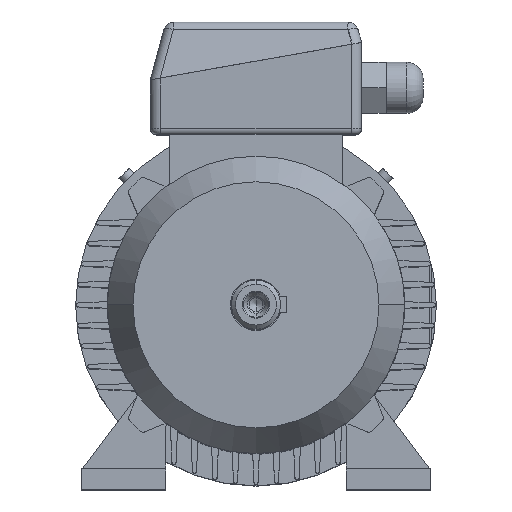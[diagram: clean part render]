
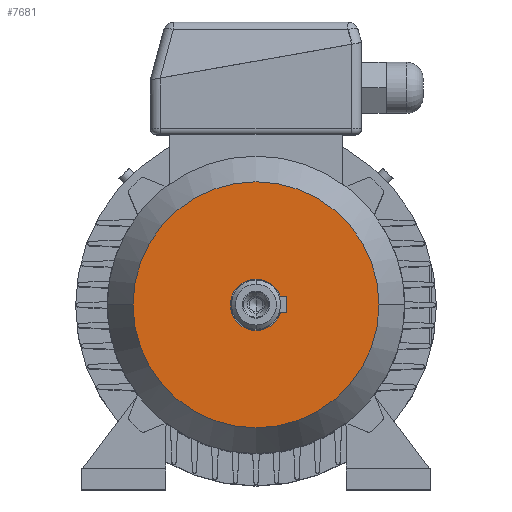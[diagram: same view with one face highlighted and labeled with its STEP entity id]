
A CAD part, top view. The second image highlights one B-rep face of the part: STEP entity #7681.
In plain terms, the highlighted planar face has unit normal (0, 0, 1).
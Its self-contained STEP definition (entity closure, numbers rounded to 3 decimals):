
#2249 = VERTEX_POINT ( 'NONE', #10528 ) ;
#2361 = CIRCLE ( 'NONE', #2362, 60. ) ;
#2362 = AXIS2_PLACEMENT_3D ( 'NONE', #2363, #2364, #2365 ) ;
#2363 = CARTESIAN_POINT ( 'NONE',  ( 0., 0., 33. ) ) ;
#2364 = DIRECTION ( 'NONE',  ( 0., 0., -1. ) ) ;
#2365 = DIRECTION ( 'NONE',  ( -1., 0., 0. ) ) ;
#2845 = FACE_OUTER_BOUND ( 'NONE', #7402, .T. ) ;
#2846 = PLANE ( 'NONE',  #2847 ) ;
#2847 = AXIS2_PLACEMENT_3D ( 'NONE', #2848, #2849, #2850 ) ;
#2848 = CARTESIAN_POINT ( 'NONE',  ( 0., 60., 33. ) ) ;
#2849 = DIRECTION ( 'NONE',  ( 0., 0., 1. ) ) ;
#2850 = DIRECTION ( 'NONE',  ( 1., 0., 0. ) ) ;
#3659 = CARTESIAN_POINT ( 'NONE',  ( 60., 0., 33. ) ) ;
#4129 = CIRCLE ( 'NONE', #4130, 60. ) ;
#4130 = AXIS2_PLACEMENT_3D ( 'NONE', #4131, #4132, #4133 ) ;
#4131 = CARTESIAN_POINT ( 'NONE',  ( 0., 0., 33. ) ) ;
#4132 = DIRECTION ( 'NONE',  ( 0., 0., -1. ) ) ;
#4133 = DIRECTION ( 'NONE',  ( -1., 0., 0. ) ) ;
#7402 = EDGE_LOOP ( 'NONE', ( #8258, #8219 ) ) ;
#7584 = EDGE_CURVE ( 'NONE', #2249, #7962, #2361, .T. ) ;
#7681 = ADVANCED_FACE ( 'NONE', ( #2845 ), #2846, .T. ) ;
#7962 = VERTEX_POINT ( 'NONE', #3659 ) ;
#8199 = EDGE_CURVE ( 'NONE', #7962, #2249, #4129, .T. ) ;
#8219 = ORIENTED_EDGE ( 'NONE', *, *, #8199, .F. ) ;
#8258 = ORIENTED_EDGE ( 'NONE', *, *, #7584, .F. ) ;
#10528 = CARTESIAN_POINT ( 'NONE',  ( -60., 0., 33. ) ) ;
